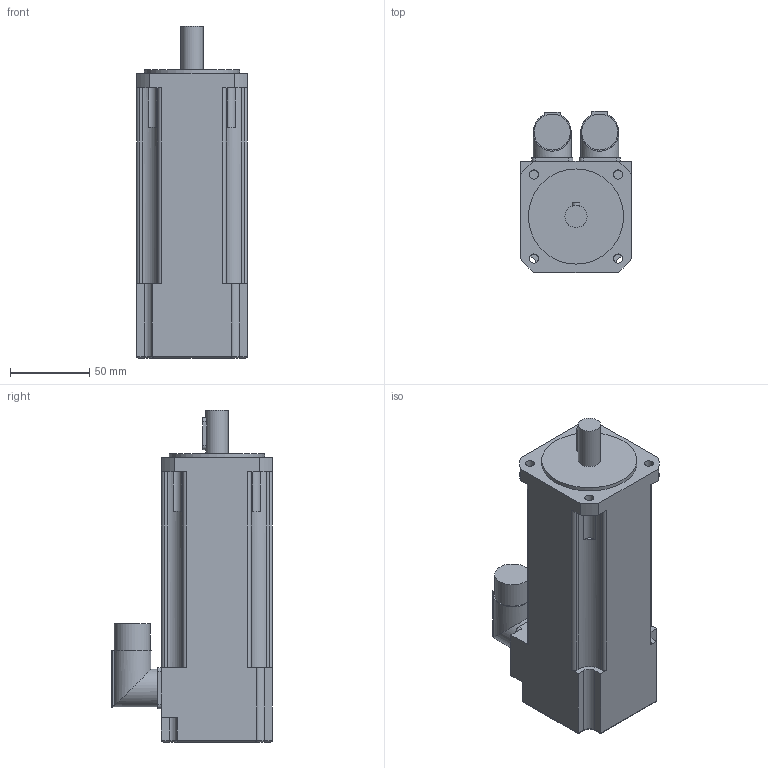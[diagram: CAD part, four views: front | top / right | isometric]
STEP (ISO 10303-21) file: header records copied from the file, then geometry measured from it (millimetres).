
FILE_DESCRIPTION(/* description */ (''),/* implementation_level */ '2;1');
FILE_NAME(/* name */ '\\Lafnas01\disegni\Archivi Lafert\3D\CAD 3D\MODELLI\Assiemi clienti\Serad\Modelli 3D Serad\B36Q\Encoder\Enc Without Brake\B36F4Qxx6ARx2033.ipt.stp',/* time_stamp */ '2015-09-07T10:49:26+02:00',/* author */ ('Pastrello Ylenia'),/* organization */ (''),/* preprocessor_version */ 'ST-DEVELOPER v15.6',/* originating_system */ 'Autodesk Inventor 2015',/* authorisation */ '');
FILE_SCHEMA (('AUTOMOTIVE_DESIGN { 1 0 10303 214 3 1 1 }'));
Length unit declared in the file: millimetre
Products named in the file (1): B36F4Qxx6ARx2033
Bounding box: 70 x 101.5 x 209.5 mm (x, y, z)
Volume: 849815.1 mm3; surface area: 68769.2 mm2
Topology: 1 solids, 1 shells, 121 faces, 322 edges, 210 vertices
Faces by surface type: plane 59, cylinder 58, torus 4
Full cylindrical faces by diameter (mm): 5.8 x4, 14 x1, 22.7 x2, 24 x2, 60 x1
Entity records: 3806 total; most frequent: CARTESIAN_POINT 678, DIRECTION 676, ORIENTED_EDGE 624, EDGE_CURVE 312, AXIS2_PLACEMENT_3D 244, VERTEX_POINT 210, LINE 188, VECTOR 188
